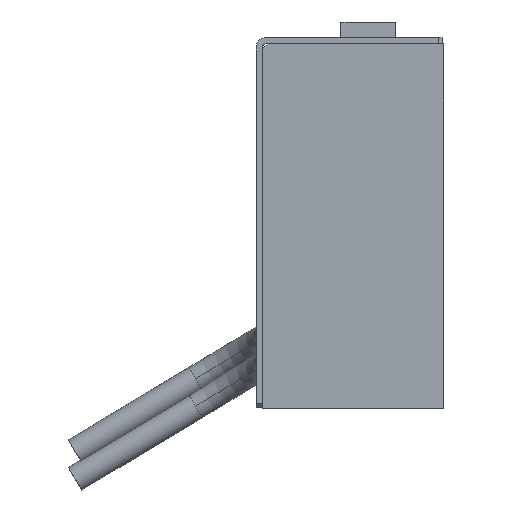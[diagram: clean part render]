
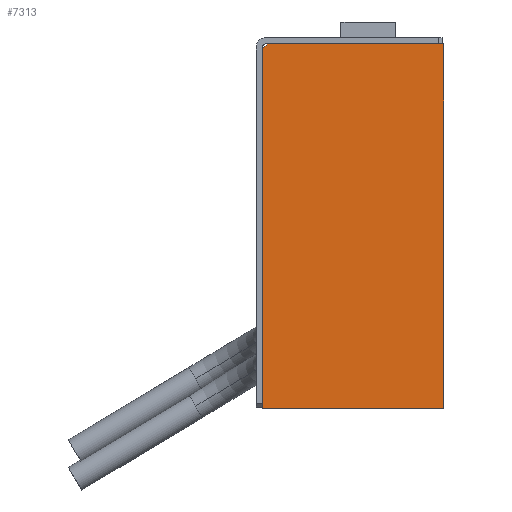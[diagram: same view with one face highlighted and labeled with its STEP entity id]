
A CAD part, left-side view. The second image highlights one B-rep face of the part: STEP entity #7313.
In plain terms, the highlighted planar face has unit normal (-1, 0, 0).
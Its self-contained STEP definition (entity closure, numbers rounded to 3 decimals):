
#1447 = VECTOR ( 'NONE', #8820, 1000. ) ;
#1954 = VERTEX_POINT ( 'NONE', #7174 ) ;
#2296 = EDGE_CURVE ( 'NONE', #20193, #14257, #9866, .T. ) ;
#2958 = VECTOR ( 'NONE', #8582, 1000. ) ;
#4372 = DIRECTION ( 'NONE',  ( 0., 0., -1. ) ) ;
#4899 = CARTESIAN_POINT ( 'NONE',  ( -27.5, 23.2, 46.1 ) ) ;
#4911 = ORIENTED_EDGE ( 'NONE', *, *, #2296, .T. ) ;
#5397 = ORIENTED_EDGE ( 'NONE', *, *, #8395, .T. ) ;
#5599 = VECTOR ( 'NONE', #16188, 1000. ) ;
#5643 = CARTESIAN_POINT ( 'NONE',  ( -27.5, 23.2, 0. ) ) ;
#6022 = FACE_OUTER_BOUND ( 'NONE', #10649, .T. ) ;
#6227 = CARTESIAN_POINT ( 'NONE',  ( -27.5, 23.2, 46.1 ) ) ;
#7174 = CARTESIAN_POINT ( 'NONE',  ( -27.5, 0., 46.7 ) ) ;
#7230 = DIRECTION ( 'NONE',  ( 0., -1., 0. ) ) ;
#7313 = ADVANCED_FACE ( 'NONE', ( #6022 ), #10777, .F. ) ;
#8395 = EDGE_CURVE ( 'NONE', #16340, #13981, #19115, .T. ) ;
#8415 = LINE ( 'NONE', #15279, #12212 ) ;
#8582 = DIRECTION ( 'NONE',  ( 0., -1., 0. ) ) ;
#8820 = DIRECTION ( 'NONE',  ( 0., 0., 1. ) ) ;
#9198 = CARTESIAN_POINT ( 'NONE',  ( -27.5, 22.6, 46.7 ) ) ;
#9866 = LINE ( 'NONE', #4899, #5599 ) ;
#10649 = EDGE_LOOP ( 'NONE', ( #12873, #4911, #13627, #5397, #14353 ) ) ;
#10777 = PLANE ( 'NONE',  #15664 ) ;
#11512 = VECTOR ( 'NONE', #12650, 1000. ) ;
#12212 = VECTOR ( 'NONE', #7230, 1000. ) ;
#12398 = CARTESIAN_POINT ( 'NONE',  ( -27.5, 23.2, 0. ) ) ;
#12549 = EDGE_CURVE ( 'NONE', #16340, #14257, #20118, .T. ) ;
#12650 = DIRECTION ( 'NONE',  ( 0., 0., 1. ) ) ;
#12873 = ORIENTED_EDGE ( 'NONE', *, *, #14020, .F. ) ;
#13627 = ORIENTED_EDGE ( 'NONE', *, *, #12549, .F. ) ;
#13801 = LINE ( 'NONE', #20121, #1447 ) ;
#13827 = DIRECTION ( 'NONE',  ( 1., 0., 0. ) ) ;
#13981 = VERTEX_POINT ( 'NONE', #16766 ) ;
#14020 = EDGE_CURVE ( 'NONE', #20193, #1954, #8415, .T. ) ;
#14257 = VERTEX_POINT ( 'NONE', #6227 ) ;
#14289 = CARTESIAN_POINT ( 'NONE',  ( -27.5, 23.2, 0. ) ) ;
#14353 = ORIENTED_EDGE ( 'NONE', *, *, #20689, .T. ) ;
#15279 = CARTESIAN_POINT ( 'NONE',  ( -27.5, 23.2, 46.7 ) ) ;
#15664 = AXIS2_PLACEMENT_3D ( 'NONE', #12398, #13827, #4372 ) ;
#16188 = DIRECTION ( 'NONE',  ( 0., 0.707, -0.707 ) ) ;
#16340 = VERTEX_POINT ( 'NONE', #5643 ) ;
#16766 = CARTESIAN_POINT ( 'NONE',  ( -27.5, 0., 0. ) ) ;
#19115 = LINE ( 'NONE', #19885, #2958 ) ;
#19885 = CARTESIAN_POINT ( 'NONE',  ( -27.5, 23.2, 0. ) ) ;
#20118 = LINE ( 'NONE', #14289, #11512 ) ;
#20121 = CARTESIAN_POINT ( 'NONE',  ( -27.5, 0., 0. ) ) ;
#20193 = VERTEX_POINT ( 'NONE', #9198 ) ;
#20689 = EDGE_CURVE ( 'NONE', #13981, #1954, #13801, .T. ) ;
